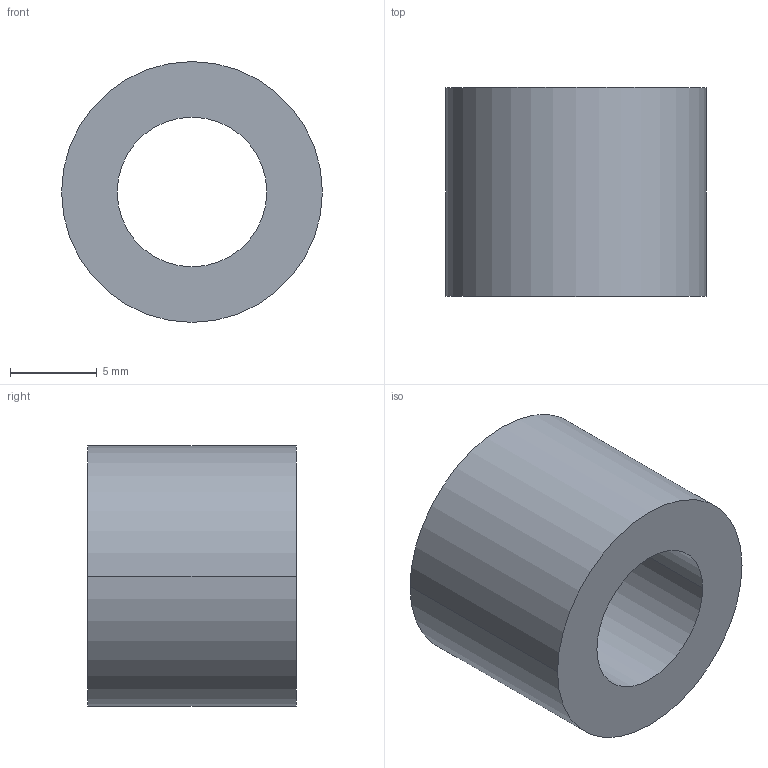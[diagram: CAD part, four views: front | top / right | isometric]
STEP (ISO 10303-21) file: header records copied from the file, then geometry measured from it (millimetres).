
FILE_DESCRIPTION (( 'STEP AP203' ), '1' );
FILE_NAME ('30800.WPP15E8.6.step', '2019-01-23T22:30:45', ( '' ), ( '' ), 'SwSTEP 2.0', 'SolidWorks 2017', '' );
FILE_SCHEMA (( 'CONFIG_CONTROL_DESIGN' ));
Length unit declared in the file: millimetre
Products named in the file (1): 30800.WPP15E8.6
Bounding box: 15 x 12 x 15 mm (x, y, z)
Volume: 1397.9 mm3; surface area: 1105.5 mm2
Topology: 1 solids, 1 shells, 8 faces, 16 edges, 10 vertices
Faces by surface type: cylinder 4, torus 2, plane 2
Entity records: 297 total; most frequent: DIRECTION 46, CARTESIAN_POINT 35, ORIENTED_EDGE 32, AXIS2_PLACEMENT_3D 21, EDGE_CURVE 16, CIRCLE 12, EDGE_LOOP 10, VERTEX_POINT 10
